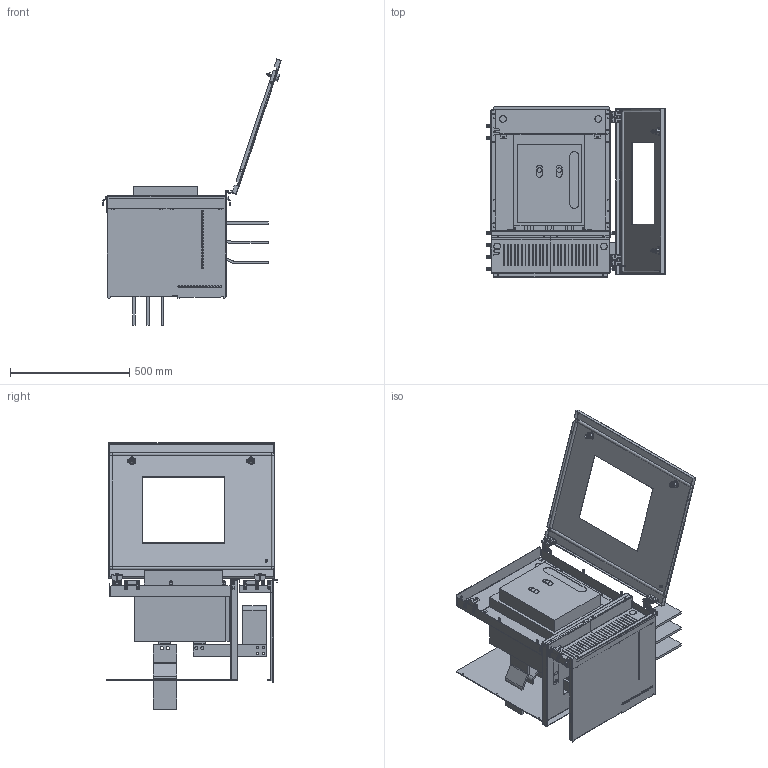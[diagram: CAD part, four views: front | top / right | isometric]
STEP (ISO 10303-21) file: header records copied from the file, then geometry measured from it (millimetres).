
FILE_DESCRIPTION(('CAx-IF Rec.Pracs.---Model Styling and Organization---1.2---2011-12-15','CAx-IF Rec.Pracs.---Geometric and Assembly Validation Properties---4.1---2014-06-16','CAx-IF Rec.Pracs.---PMI Polyline Presentation---2.0---2013-05-24'),'2;1');
FILE_NAME('R5M214IB5H61121S (one-side).stp','2021-05-05T12:50:35+03:00',(''),(''),'STEP Interface 4.4 by CT CoreTechnologie','3D_Evolution4.4 by CT CoreTechnologie','');
FILE_SCHEMA(('AUTOMOTIVE_DESIGN { 1 0 10303 214 1 1 1 1 }'));
Length unit declared in the file: millimetre
Products named in the file (33): R5M214IB5H61121S(îäíîñòîðîííèé); AC00C485; RB.1449.00.00.0_-00; M6 x 16-DIN 7991 ISR_thread; RB.1448.00.00.0_-00; HNDDS2F_-00; HNDDS3F_-00; RB.1450.00.00.0_-01; RB.1227.00.00.0_-01; RB.1451.00.00.0 ÑÁ_-00 (Emax E1.2 F); RB.1451.00.01.0_-00 (HGS F); PF 7x14 MCC2.0_0700x0600; AC00C266; AC00C061_AC00C061; Ì6õ12-A5100231_straight; RB.0116.00.00.3_-00; RB.1226.00.00.0_-00; RB.1227.00.00.0_-00; RB.1594.00.00.0_-00 (HND F); RB.0687.00.00.1_-00; HGN06-20 F_-00; RB.1233.00.00.0_-01; HNDOF2_-00; MS737-1-1(1); MS737-1-1 Z_ ªàëâ; MS737-1-1 stop_fixed; HNDOF1_-00; MS737-1-1(2); HNDDS1F_-00; HNDT3F_-00; HNDT1F_-00; HNDT2F_-00; RB.1450.00.00.0_-00
Assembly tree (64 placements, depth 3):
  R5M214IB5H61121S(îäíîñòîðîííèé)
    AC00C485  x12
    RB.1449.00.00.0_-00
    M6 x 16-DIN 7991 ISR_thread  x12
    RB.1448.00.00.0_-00  x2
    HNDDS2F_-00
    HNDDS3F_-00
    RB.1450.00.00.0_-01
    RB.1227.00.00.0_-01
    RB.1451.00.00.0 ÑÁ_-00 (Emax E1.2 F)
      RB.1451.00.01.0_-00 (HGS F)
      PF 7x14 MCC2.0_0700x0600
      AC00C266  x2
      AC00C061_AC00C061
      Ì6õ12-A5100231_straight
    RB.0116.00.00.3_-00  x2
    RB.1226.00.00.0_-00
    RB.1227.00.00.0_-00
    RB.1594.00.00.0_-00 (HND F)
    RB.0687.00.00.1_-00  x2
    HGN06-20 F_-00
    RB.1233.00.00.0_-01
    HNDOF2_-00  x3
    MS737-1-1(1)
      MS737-1-1 Z_ ªàëâ
      MS737-1-1 stop_fixed
    HNDOF1_-00  x3
    MS737-1-1(2)
      MS737-1-1 Z_ ªàëâ
      MS737-1-1 stop_fixed
    HNDDS1F_-00
    HNDT3F_-00
    HNDT1F_-00
    HNDT2F_-00
    RB.1450.00.00.0_-00
Bounding box: 749.38 x 717 x 1118.54 mm (x, y, z)
Surface area: 4539540.3 mm2 (no closed solid volume)
Topology: 0 solids, 81 shells, 3115 faces, 8101 edges, 5127 vertices
Faces by surface type: plane 1505, cylinder 1240, bspline 370
Entity records: 56559 total; most frequent: CARTESIAN_POINT 12789, ORIENTED_EDGE 8674, DIRECTION 8622, EDGE_CURVE 4339, VECTOR 2998, LINE 2998, VERTEX_POINT 2815, AXIS2_PLACEMENT_3D 2812
